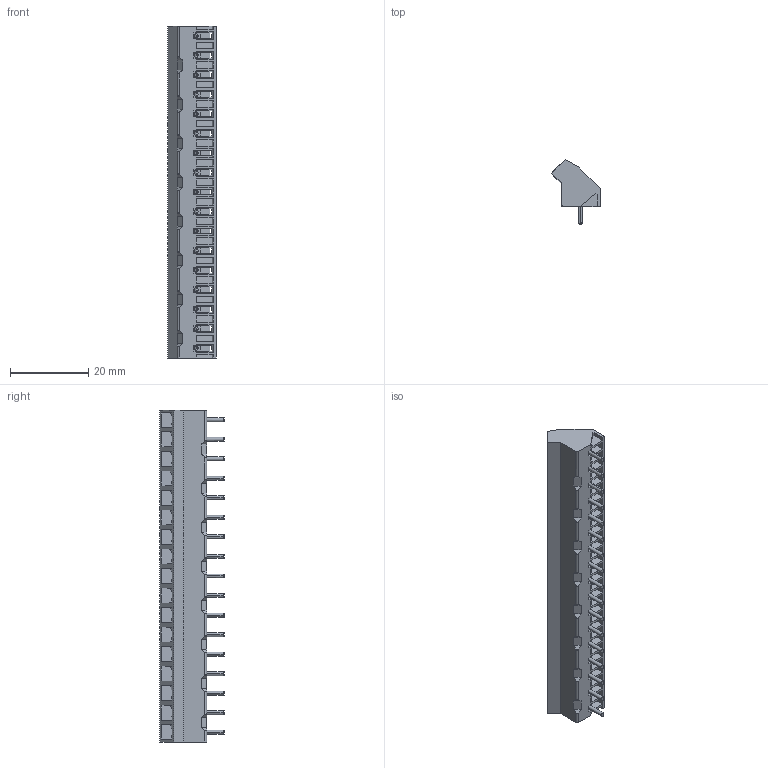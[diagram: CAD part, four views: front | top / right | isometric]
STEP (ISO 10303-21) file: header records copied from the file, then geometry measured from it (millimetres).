
FILE_DESCRIPTION (( 'STEP AP214' ), '1' );
FILE_NAME ('974-FB-17.STEP', '2009-02-23T03:14:24', ( ' ' ), ( '' ), 'SwSTEP 2.0', 'SolidWorks 2007', '' );
FILE_SCHEMA (( 'AUTOMOTIVE_DESIGN' ));
Length unit declared in the file: millimetre
Products named in the file (1): 974-FB-17
Bounding box: 12.5 x 16.5 x 85 mm (x, y, z)
Volume: 5749.3 mm3; surface area: 6878.5 mm2
Topology: 1 solids, 1 shells, 1383 faces, 3721 edges, 2390 vertices
Faces by surface type: plane 1073, cylinder 242, cone 68
Entity records: 43071 total; most frequent: CARTESIAN_POINT 8588, ORIENTED_EDGE 7442, DIRECTION 6709, EDGE_CURVE 3721, VECTOR 2999, LINE 2999, VERTEX_POINT 2390, AXIS2_PLACEMENT_3D 1855
